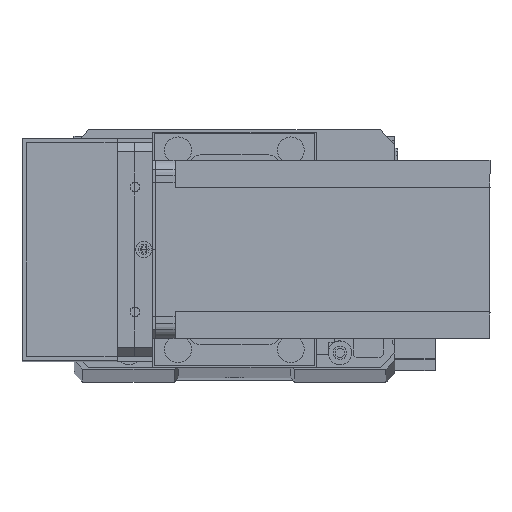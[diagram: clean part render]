
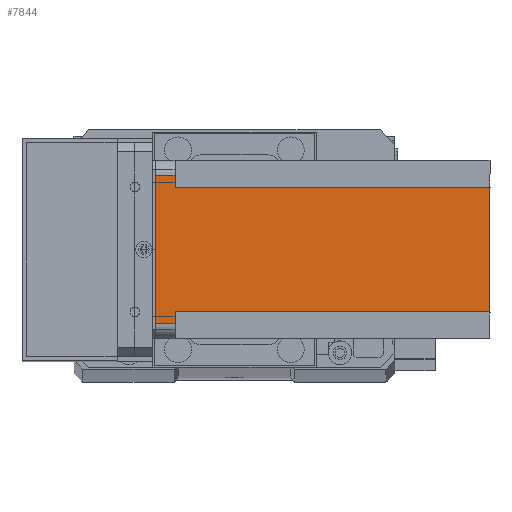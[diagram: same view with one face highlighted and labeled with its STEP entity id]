
A CAD part, top view. The second image highlights one B-rep face of the part: STEP entity #7844.
In plain terms, the highlighted planar face has unit normal (0, 0, 1) as drawn and (1, 0, 0) by its records, which use the part's own axes.
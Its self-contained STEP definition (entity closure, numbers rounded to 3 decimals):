
#390 = EDGE_CURVE ( 'NONE', #29934, #5649, #19307, .T. ) ;
#1770 = ORIENTED_EDGE ( 'NONE', *, *, #22738, .T. ) ;
#2017 = DIRECTION ( 'NONE',  ( 0., 0., -1. ) ) ;
#2127 = DIRECTION ( 'NONE',  ( 0., 0., -1. ) ) ;
#2756 = VECTOR ( 'NONE', #9205, 1000. ) ;
#2994 = CARTESIAN_POINT ( 'NONE',  ( 60., 9., -112.5 ) ) ;
#3239 = VERTEX_POINT ( 'NONE', #7866 ) ;
#3413 = CARTESIAN_POINT ( 'NONE',  ( 60., 9., -6.5 ) ) ;
#4657 = ORIENTED_EDGE ( 'NONE', *, *, #26728, .T. ) ;
#4731 = LINE ( 'NONE', #9941, #25627 ) ;
#5312 = DIRECTION ( 'NONE',  ( 0., 1., 0. ) ) ;
#5649 = VERTEX_POINT ( 'NONE', #3413 ) ;
#5921 = ORIENTED_EDGE ( 'NONE', *, *, #15369, .F. ) ;
#6291 = VECTOR ( 'NONE', #11196, 1000. ) ;
#6451 = VERTEX_POINT ( 'NONE', #9683 ) ;
#6457 = CARTESIAN_POINT ( 'NONE',  ( 60., 55., -112.5 ) ) ;
#7135 = PLANE ( 'NONE',  #11873 ) ;
#7844 = ADVANCED_FACE ( 'NONE', ( #25567 ), #7135, .T. ) ;
#7866 = CARTESIAN_POINT ( 'NONE',  ( 60., 55., 0. ) ) ;
#8542 = CARTESIAN_POINT ( 'NONE',  ( 60., 0., -6.5 ) ) ;
#9205 = DIRECTION ( 'NONE',  ( 0., -1., 0. ) ) ;
#9605 = CARTESIAN_POINT ( 'NONE',  ( 60., 51., -6.5 ) ) ;
#9683 = CARTESIAN_POINT ( 'NONE',  ( 60., 5., -6.5 ) ) ;
#9941 = CARTESIAN_POINT ( 'NONE',  ( 60., 51., -112.5 ) ) ;
#11196 = DIRECTION ( 'NONE',  ( 0., -1., 0. ) ) ;
#11734 = ORIENTED_EDGE ( 'NONE', *, *, #19954, .F. ) ;
#11767 = DIRECTION ( 'NONE',  ( 0., 0., 1. ) ) ;
#11873 = AXIS2_PLACEMENT_3D ( 'NONE', #20222, #33374, #17717 ) ;
#12919 = CARTESIAN_POINT ( 'NONE',  ( 60., 51., -112.5 ) ) ;
#13167 = EDGE_CURVE ( 'NONE', #30074, #3239, #22226, .T. ) ;
#13526 = CARTESIAN_POINT ( 'NONE',  ( 60., 9., -112.5 ) ) ;
#14632 = DIRECTION ( 'NONE',  ( 0., 0., 1. ) ) ;
#15298 = VECTOR ( 'NONE', #11767, 1000. ) ;
#15369 = EDGE_CURVE ( 'NONE', #30895, #3239, #30713, .T. ) ;
#16540 = ORIENTED_EDGE ( 'NONE', *, *, #390, .F. ) ;
#16551 = ORIENTED_EDGE ( 'NONE', *, *, #21033, .F. ) ;
#17259 = CARTESIAN_POINT ( 'NONE',  ( 60., 0., -112.5 ) ) ;
#17717 = DIRECTION ( 'NONE',  ( 0., 1., 0. ) ) ;
#17791 = LINE ( 'NONE', #8542, #6291 ) ;
#17970 = CARTESIAN_POINT ( 'NONE',  ( 60., 5., 0. ) ) ;
#19101 = ORIENTED_EDGE ( 'NONE', *, *, #13167, .T. ) ;
#19307 = LINE ( 'NONE', #13526, #25400 ) ;
#19954 = EDGE_CURVE ( 'NONE', #30074, #26664, #23690, .T. ) ;
#20222 = CARTESIAN_POINT ( 'NONE',  ( 60., 0., -112.5 ) ) ;
#21033 = EDGE_CURVE ( 'NONE', #26664, #22965, #4731, .T. ) ;
#21910 = CARTESIAN_POINT ( 'NONE',  ( 60., 55., -6.5 ) ) ;
#22226 = LINE ( 'NONE', #6457, #15298 ) ;
#22738 = EDGE_CURVE ( 'NONE', #29934, #22965, #30075, .T. ) ;
#22965 = VERTEX_POINT ( 'NONE', #12919 ) ;
#23125 = VECTOR ( 'NONE', #27766, 1000. ) ;
#23202 = EDGE_CURVE ( 'NONE', #5649, #6451, #17791, .T. ) ;
#23690 = LINE ( 'NONE', #32665, #2756 ) ;
#25400 = VECTOR ( 'NONE', #14632, 1000. ) ;
#25567 = FACE_OUTER_BOUND ( 'NONE', #27165, .T. ) ;
#25627 = VECTOR ( 'NONE', #2127, 1000. ) ;
#26664 = VERTEX_POINT ( 'NONE', #9605 ) ;
#26728 = EDGE_CURVE ( 'NONE', #30895, #6451, #33357, .T. ) ;
#27165 = EDGE_LOOP ( 'NONE', ( #11734, #19101, #5921, #4657, #32122, #16540, #1770, #16551 ) ) ;
#27766 = DIRECTION ( 'NONE',  ( 0., 1., 0. ) ) ;
#28115 = CARTESIAN_POINT ( 'NONE',  ( 60., 5., -112.5 ) ) ;
#29036 = CARTESIAN_POINT ( 'NONE',  ( 60., 0., 0. ) ) ;
#29934 = VERTEX_POINT ( 'NONE', #2994 ) ;
#30074 = VERTEX_POINT ( 'NONE', #21910 ) ;
#30075 = LINE ( 'NONE', #17259, #23125 ) ;
#30713 = LINE ( 'NONE', #29036, #31558 ) ;
#30895 = VERTEX_POINT ( 'NONE', #17970 ) ;
#31558 = VECTOR ( 'NONE', #5312, 1000. ) ;
#32122 = ORIENTED_EDGE ( 'NONE', *, *, #23202, .F. ) ;
#32212 = VECTOR ( 'NONE', #2017, 1000. ) ;
#32665 = CARTESIAN_POINT ( 'NONE',  ( 60., 60., -6.5 ) ) ;
#33357 = LINE ( 'NONE', #28115, #32212 ) ;
#33374 = DIRECTION ( 'NONE',  ( 1., 0., 0. ) ) ;
